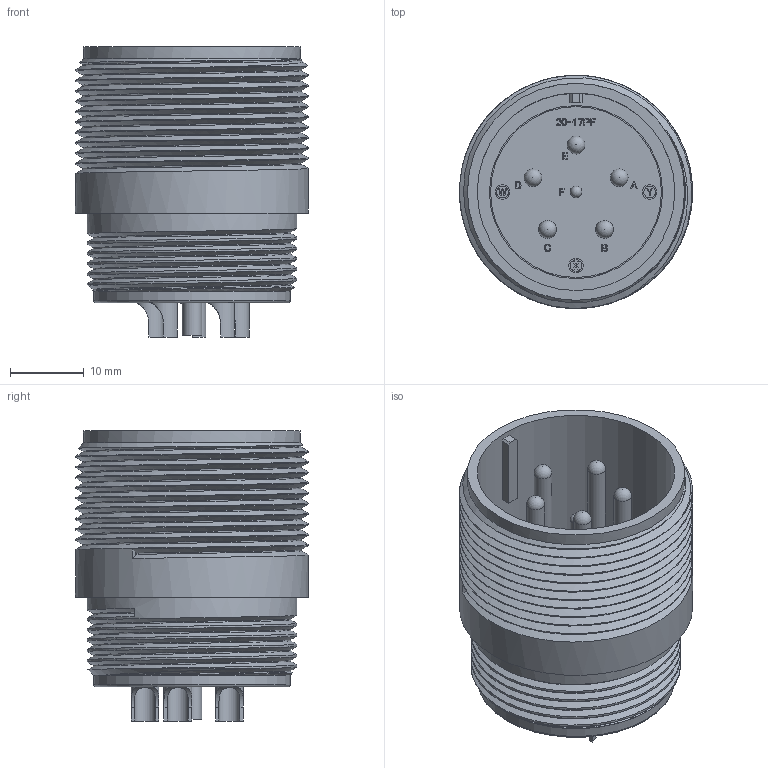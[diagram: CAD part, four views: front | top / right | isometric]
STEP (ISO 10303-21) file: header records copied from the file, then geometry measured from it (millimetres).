
FILE_DESCRIPTION (( 'STEP AP203' ), '1' );
FILE_NAME ('DMS3101A20-17P(D263).STEP', '2022-02-02T09:23:35', ( '' ), ( '' ), 'SwSTEP 2.0', 'SolidWorks 2018', '' );
FILE_SCHEMA (( 'CONFIG_CONTROL_DESIGN' ));
Length unit declared in the file: millimetre
Products named in the file (1): DMS3101A20-17P(D263)
Bounding box: 31.7 x 31.7 x 39.47 mm (x, y, z)
Volume: 12753.8 mm3; surface area: 10313.5 mm2
Topology: 1 solids, 1 shells, 591 faces, 1549 edges, 1032 vertices
Faces by surface type: plane 334, bspline 174, cylinder 73, torus 7, cone 2, sphere 1
Full cylindrical faces by diameter (mm): 1.59 x1, 1.6 x3, 2 x3, 2.41 x5, 2.85 x5, 3.79 x5, 3.9 x5, 4.9 x1, 20.62 x1, 23.24 x1, 23.55 x1, 24.84 x1, 26.8 x1, 26.87 x1, 28.53 x6, 29.52 x1, 31.71 x10
Entity records: 24940 total; most frequent: CARTESIAN_POINT 12169, ORIENTED_EDGE 2866, DIRECTION 1987, EDGE_CURVE 1433, VERTEX_POINT 977, VECTOR 945, LINE 945, EDGE_LOOP 696
